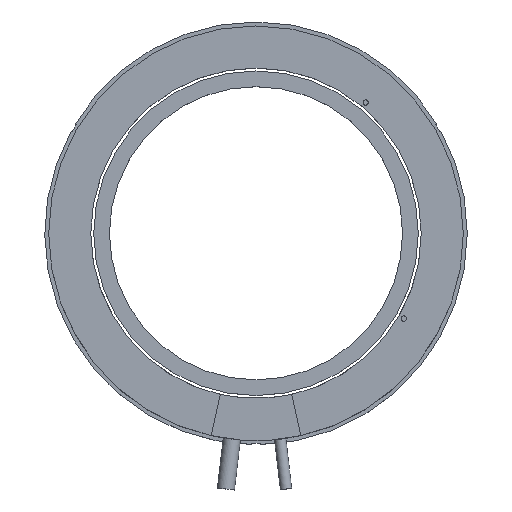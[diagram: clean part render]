
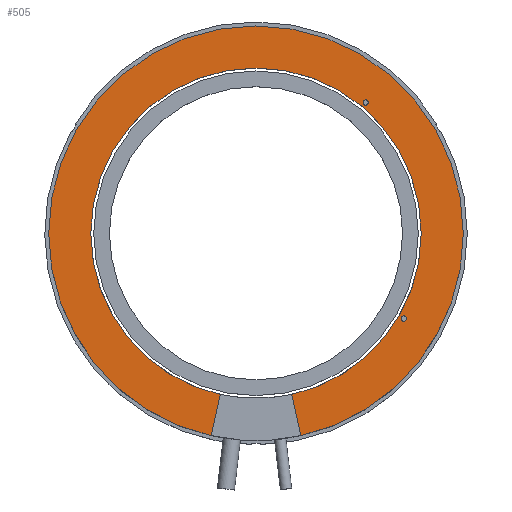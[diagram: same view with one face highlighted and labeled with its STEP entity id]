
A CAD part, top view. The second image highlights one B-rep face of the part: STEP entity #505.
In plain terms, the highlighted planar face has unit normal (0, 0, 1).
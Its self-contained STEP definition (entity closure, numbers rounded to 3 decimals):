
#17 = AXIS2_PLACEMENT_3D ( 'NONE', #190, #176, #894 ) ;
#25 = EDGE_CURVE ( 'NONE', #776, #821, #1125, .T. ) ;
#29 = CARTESIAN_POINT ( 'NONE',  ( 62.55, 0., 17. ) ) ;
#48 = EDGE_CURVE ( 'NONE', #145, #776, #61, .T. ) ;
#61 = CIRCLE ( 'NONE', #17, 62.55 ) ;
#66 = EDGE_CURVE ( 'NONE', #1395, #451, #1302, .T. ) ;
#84 = DIRECTION ( 'NONE',  ( 1., 0., 0. ) ) ;
#97 = CARTESIAN_POINT ( 'NONE',  ( 56.945, -32.3, 17. ) ) ;
#108 = DIRECTION ( 'NONE',  ( 0., 0., 1. ) ) ;
#117 = ORIENTED_EDGE ( 'NONE', *, *, #48, .F. ) ;
#142 = VECTOR ( 'NONE', #1357, 1000. ) ;
#145 = VERTEX_POINT ( 'NONE', #29 ) ;
#164 = CARTESIAN_POINT ( 'NONE',  ( -78.5, 0., 17. ) ) ;
#176 = DIRECTION ( 'NONE',  ( 0., 0., 1. ) ) ;
#179 = ORIENTED_EDGE ( 'NONE', *, *, #302, .F. ) ;
#190 = CARTESIAN_POINT ( 'NONE',  ( 0., 0., 17. ) ) ;
#193 = EDGE_LOOP ( 'NONE', ( #1103, #394 ) ) ;
#200 = DIRECTION ( 'NONE',  ( 1., 0., 0. ) ) ;
#202 = VERTEX_POINT ( 'NONE', #927 ) ;
#205 = CARTESIAN_POINT ( 'NONE',  ( 0., 0., 17. ) ) ;
#253 = VERTEX_POINT ( 'NONE', #403 ) ;
#268 = CARTESIAN_POINT ( 'NONE',  ( 62.55, 0., 17. ) ) ;
#302 = EDGE_CURVE ( 'NONE', #821, #451, #669, .T. ) ;
#303 = DIRECTION ( 'NONE',  ( 0., 0., 1. ) ) ;
#317 = LINE ( 'NONE', #900, #142 ) ;
#369 = DIRECTION ( 'NONE',  ( 0., 0., 1. ) ) ;
#382 = PLANE ( 'NONE',  #1129 ) ;
#391 = CARTESIAN_POINT ( 'NONE',  ( 0., 0., 17. ) ) ;
#394 = ORIENTED_EDGE ( 'NONE', *, *, #1092, .F. ) ;
#403 = CARTESIAN_POINT ( 'NONE',  ( 54.945, -32.3, 17. ) ) ;
#414 = DIRECTION ( 'NONE',  ( 1., 0., 0. ) ) ;
#437 = EDGE_CURVE ( 'NONE', #1099, #202, #1371, .T. ) ;
#439 = CIRCLE ( 'NONE', #1301, 1. ) ;
#442 = CARTESIAN_POINT ( 'NONE',  ( -16.991, -76.639, 17. ) ) ;
#451 = VERTEX_POINT ( 'NONE', #442 ) ;
#461 = CARTESIAN_POINT ( 'NONE',  ( 55.945, -32.3, 17. ) ) ;
#483 = ORIENTED_EDGE ( 'NONE', *, *, #437, .T. ) ;
#488 = FACE_BOUND ( 'NONE', #1259, .T. ) ;
#505 = ADVANCED_FACE ( 'NONE', ( #1421, #488, #1415 ), #382, .T. ) ;
#526 = DIRECTION ( 'NONE',  ( 1., 0., 0. ) ) ;
#530 = ORIENTED_EDGE ( 'NONE', *, *, #999, .F. ) ;
#541 = DIRECTION ( 'NONE',  ( 1., 0., 0. ) ) ;
#554 = DIRECTION ( 'NONE',  ( 1., 0., 0. ) ) ;
#555 = DIRECTION ( 'NONE',  ( 1., 0., 0. ) ) ;
#556 = ORIENTED_EDGE ( 'NONE', *, *, #734, .T. ) ;
#566 = DIRECTION ( 'NONE',  ( 1., 0., 0. ) ) ;
#644 = DIRECTION ( 'NONE',  ( -0.216, -0.976, 0. ) ) ;
#647 = DIRECTION ( 'NONE',  ( 0., 0., 1. ) ) ;
#648 = VERTEX_POINT ( 'NONE', #723 ) ;
#652 = AXIS2_PLACEMENT_3D ( 'NONE', #1268, #882, #554 ) ;
#664 = CARTESIAN_POINT ( 'NONE',  ( 41.524, 49.486, 17. ) ) ;
#669 = LINE ( 'NONE', #1466, #1078 ) ;
#694 = AXIS2_PLACEMENT_3D ( 'NONE', #892, #1479, #414 ) ;
#718 = CIRCLE ( 'NONE', #1238, 62.55 ) ;
#723 = CARTESIAN_POINT ( 'NONE',  ( 13.538, -61.067, 17. ) ) ;
#730 = AXIS2_PLACEMENT_3D ( 'NONE', #1394, #108, #566 ) ;
#734 = EDGE_CURVE ( 'NONE', #202, #1395, #1222, .T. ) ;
#737 = DIRECTION ( 'NONE',  ( 1., 0., 0. ) ) ;
#738 = ORIENTED_EDGE ( 'NONE', *, *, #1143, .F. ) ;
#756 = CARTESIAN_POINT ( 'NONE',  ( 0., 0., 17. ) ) ;
#760 = CARTESIAN_POINT ( 'NONE',  ( -62.55, 0., 17. ) ) ;
#776 = VERTEX_POINT ( 'NONE', #760 ) ;
#789 = CIRCLE ( 'NONE', #1449, 1. ) ;
#797 = EDGE_CURVE ( 'NONE', #1210, #969, #1178, .T. ) ;
#807 = AXIS2_PLACEMENT_3D ( 'NONE', #756, #1123, #541 ) ;
#817 = CIRCLE ( 'NONE', #694, 1. ) ;
#821 = VERTEX_POINT ( 'NONE', #1486 ) ;
#822 = CARTESIAN_POINT ( 'NONE',  ( 42.524, 49.486, 17. ) ) ;
#826 = ORIENTED_EDGE ( 'NONE', *, *, #66, .T. ) ;
#851 = DIRECTION ( 'NONE',  ( 0., 0., 1. ) ) ;
#881 = AXIS2_PLACEMENT_3D ( 'NONE', #205, #303, #84 ) ;
#882 = DIRECTION ( 'NONE',  ( 0., 0., 1. ) ) ;
#892 = CARTESIAN_POINT ( 'NONE',  ( 55.945, -32.3, 17. ) ) ;
#894 = DIRECTION ( 'NONE',  ( 1., 0., 0. ) ) ;
#900 = CARTESIAN_POINT ( 'NONE',  ( 13.538, -61.067, 17. ) ) ;
#907 = DIRECTION ( 'NONE',  ( 0., 0., 1. ) ) ;
#927 = CARTESIAN_POINT ( 'NONE',  ( 78.5, 0., 17. ) ) ;
#955 = ORIENTED_EDGE ( 'NONE', *, *, #1485, .F. ) ;
#969 = VERTEX_POINT ( 'NONE', #1105 ) ;
#999 = EDGE_CURVE ( 'NONE', #648, #145, #718, .T. ) ;
#1078 = VECTOR ( 'NONE', #644, 1000. ) ;
#1092 = EDGE_CURVE ( 'NONE', #969, #1210, #789, .T. ) ;
#1099 = VERTEX_POINT ( 'NONE', #1487 ) ;
#1103 = ORIENTED_EDGE ( 'NONE', *, *, #797, .F. ) ;
#1105 = CARTESIAN_POINT ( 'NONE',  ( 40.524, 49.486, 17. ) ) ;
#1123 = DIRECTION ( 'NONE',  ( 0., 0., 1. ) ) ;
#1125 = CIRCLE ( 'NONE', #881, 62.55 ) ;
#1129 = AXIS2_PLACEMENT_3D ( 'NONE', #268, #369, #737 ) ;
#1143 = EDGE_CURVE ( 'NONE', #253, #1162, #817, .T. ) ;
#1147 = EDGE_CURVE ( 'NONE', #1099, #648, #317, .T. ) ;
#1162 = VERTEX_POINT ( 'NONE', #97 ) ;
#1178 = CIRCLE ( 'NONE', #1418, 1. ) ;
#1210 = VERTEX_POINT ( 'NONE', #822 ) ;
#1222 = CIRCLE ( 'NONE', #652, 78.5 ) ;
#1238 = AXIS2_PLACEMENT_3D ( 'NONE', #391, #851, #1321 ) ;
#1249 = DIRECTION ( 'NONE',  ( 0., 0., 1. ) ) ;
#1253 = CARTESIAN_POINT ( 'NONE',  ( 41.524, 49.486, 17. ) ) ;
#1259 = EDGE_LOOP ( 'NONE', ( #955, #738 ) ) ;
#1268 = CARTESIAN_POINT ( 'NONE',  ( 0., 0., 17. ) ) ;
#1274 = ORIENTED_EDGE ( 'NONE', *, *, #25, .F. ) ;
#1301 = AXIS2_PLACEMENT_3D ( 'NONE', #461, #1249, #200 ) ;
#1302 = CIRCLE ( 'NONE', #807, 78.5 ) ;
#1321 = DIRECTION ( 'NONE',  ( 1., 0., 0. ) ) ;
#1326 = EDGE_LOOP ( 'NONE', ( #1331, #483, #556, #826, #179, #1274, #117, #530 ) ) ;
#1331 = ORIENTED_EDGE ( 'NONE', *, *, #1147, .F. ) ;
#1357 = DIRECTION ( 'NONE',  ( -0.216, 0.976, 0. ) ) ;
#1371 = CIRCLE ( 'NONE', #730, 78.5 ) ;
#1394 = CARTESIAN_POINT ( 'NONE',  ( 0., 0., 17. ) ) ;
#1395 = VERTEX_POINT ( 'NONE', #164 ) ;
#1415 = FACE_OUTER_BOUND ( 'NONE', #1326, .T. ) ;
#1418 = AXIS2_PLACEMENT_3D ( 'NONE', #1253, #907, #526 ) ;
#1421 = FACE_BOUND ( 'NONE', #193, .T. ) ;
#1449 = AXIS2_PLACEMENT_3D ( 'NONE', #664, #647, #555 ) ;
#1466 = CARTESIAN_POINT ( 'NONE',  ( -13.538, -61.067, 17. ) ) ;
#1479 = DIRECTION ( 'NONE',  ( 0., 0., 1. ) ) ;
#1485 = EDGE_CURVE ( 'NONE', #1162, #253, #439, .T. ) ;
#1486 = CARTESIAN_POINT ( 'NONE',  ( -13.538, -61.067, 17. ) ) ;
#1487 = CARTESIAN_POINT ( 'NONE',  ( 16.991, -76.639, 17. ) ) ;
